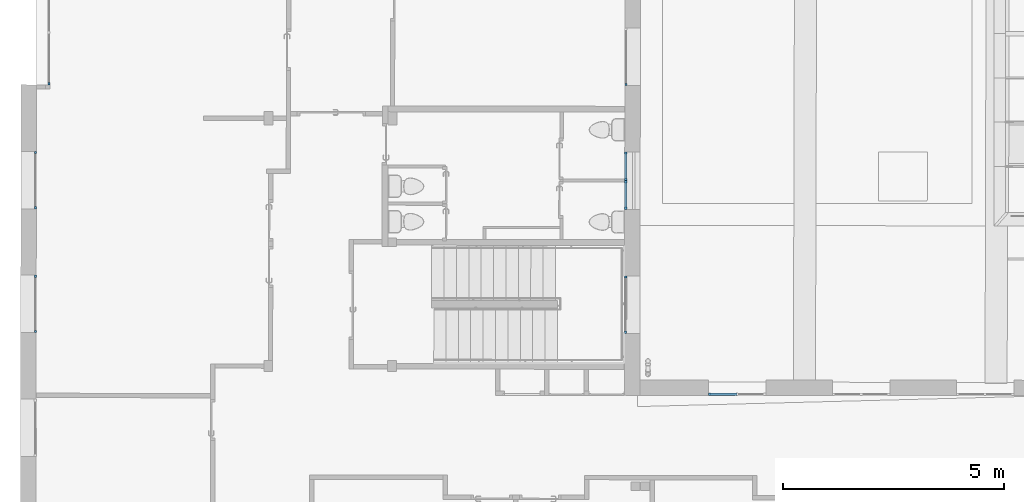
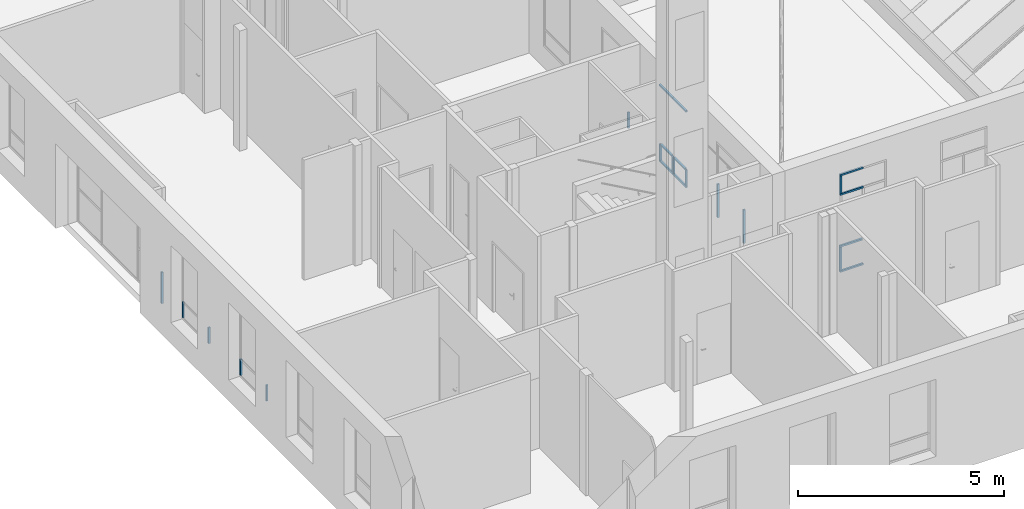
# One storey, part 21 of 101: 24 members, 8 elements without a shape of their own.
"""IFC2X3 building model written with IfcOpenShell, lengths in metres."""

import ifcopenshell
import ifcopenshell.guid

model = None  # the IFC model being written
_history = None  # IfcOwnerHistory: only IFC2X3 demands one
_inside = {}  # id of a spatial element -> (the spatial element, [elements in it])
_under = {}  # id of a project, library or spatial element -> (it, [spatial elements below it])
_declared = {}  # id of a project -> (the project, [libraries it declares])
_typed = {}  # id of a type object -> (the type object, [elements of that type])
_made_of = {}  # id of a material, layer set ... -> (it, [elements and type objects made of it])


def new_model(schema):
    """Start an empty IFC model of exactly this schema.

    Asked for "IFC4X3", IfcOpenShell would pick the latest addendum, in which some entities
    have other attributes; the version numbers below select the first issue.
    IFC2X3 requires an IfcOwnerHistory on every rooted entity: one is made here for all.
    """
    global model, _history
    if schema == "IFC4X3":
        model = ifcopenshell.file(schema_version=(4, 3, 0, 0))
    else:
        model = ifcopenshell.file(schema=schema)
    _inside.clear()
    _under.clear()
    _declared.clear()
    _typed.clear()
    _made_of.clear()
    _history = None
    if model.schema == "IFC2X3":
        org = make("IfcOrganization", Name="unknown")
        user = make(
            "IfcPersonAndOrganization",
            ThePerson=make("IfcPerson", FamilyName="unknown"),
            TheOrganization=org,
        )
        app = make(
            "IfcApplication",
            ApplicationDeveloper=org,
            Version="unknown",
            ApplicationFullName="unknown",
            ApplicationIdentifier="unknown",
        )
        _history = make(
            "IfcOwnerHistory",
            OwningUser=user,
            OwningApplication=app,
            ChangeAction="ADDED",
            CreationDate=0,
        )
    return model


def make(cls, **values):
    """One entity of the class cls with the attributes given. An attribute that is None is left unset."""
    return model.create_entity(
        cls, **{name: value for name, value in values.items() if value is not None}
    )


def entity(cls, *values):
    """Any entity or typed value of the class cls, its attributes in the order of the schema. None: left unset."""
    e = model.create_entity(cls)
    for i, value in enumerate(values):
        if value is not None:
            e[i] = value
    return e


def rooted(cls, **values):
    """An entity with a GlobalId (a new one), such as an element, a storey or a relation."""
    return make(cls, GlobalId=ifcopenshell.guid.new(), OwnerHistory=_history, **values)


def si_unit(unit_type, name, prefix=None):
    """IfcSIUnit, for example si_unit("LENGTHUNIT", "METRE", prefix="MILLI")."""
    return make("IfcSIUnit", UnitType=unit_type, Prefix=prefix, Name=name)


def converted_unit(unit_type, name, factor, base, dimensions=None, offset=None):
    """IfcConversionBasedUnit, such as the inch: factor (a typed value) times the base unit."""
    return make(
        "IfcConversionBasedUnit"
        if offset is None
        else "IfcConversionBasedUnitWithOffset",
        ConversionOffset=offset,
        Dimensions=None
        if dimensions is None
        else entity("IfcDimensionalExponents", *dimensions),
        UnitType=unit_type,
        Name=name,
        ConversionFactor=make(
            "IfcMeasureWithUnit", ValueComponent=factor, UnitComponent=base
        ),
    )


def derived_unit(unit_type, elements):
    """IfcDerivedUnit: a product of units, each with its exponent."""
    return make(
        "IfcDerivedUnit",
        Elements=[
            make("IfcDerivedUnitElement", Unit=unit, Exponent=power)
            for unit, power in elements
        ],
        UnitType=unit_type,
    )


def assignment(units):
    """IfcUnitAssignment: the units of a project."""
    return None if units is None else make("IfcUnitAssignment", Units=units)


def point(xyz):
    """IfcCartesianPoint."""
    return None if xyz is None else make("IfcCartesianPoint", Coordinates=xyz)


def direction(xyz):
    """IfcDirection."""
    return None if xyz is None else make("IfcDirection", DirectionRatios=xyz)


def frame(location, z_axis=None, x_axis=None):
    """IfcAxis2Placement3D, a coordinate frame: its origin and axes. An axis left out is left unset."""
    return make(
        "IfcAxis2Placement3D",
        Location=point(location),
        Axis=direction(z_axis),
        RefDirection=direction(x_axis),
    )


def frame_2d(location, x_axis=None):
    """IfcAxis2Placement2D, a coordinate frame in the plane: its origin and x axis."""
    return make(
        "IfcAxis2Placement2D", Location=point(location), RefDirection=direction(x_axis)
    )


def origin():
    """The frame at (0, 0, 0) with its axes left unset."""
    return frame((0.0, 0.0, 0.0))


def origin_2d_with_axis():
    """The frame at (0, 0) in the plane with the x axis (1, 0) written out."""
    return frame_2d((0.0, 0.0), x_axis=(1.0, 0.0))


def place(relative_to, where):
    """IfcLocalPlacement: puts the frame where relative to a parent placement (None: the world)."""
    return make(
        "IfcLocalPlacement", PlacementRelTo=relative_to, RelativePlacement=where
    )


def context(
    kind, dimensions, precision=None, world=None, true_north=None, identifier=None
):
    """IfcGeometricRepresentationContext, for example the 3D "Model" context."""
    return make(
        "IfcGeometricRepresentationContext",
        ContextIdentifier=identifier,
        ContextType=kind,
        CoordinateSpaceDimension=dimensions,
        Precision=precision,
        WorldCoordinateSystem=world,
        TrueNorth=true_north,
    )


def subcontext(parent, identifier, kind, view, scale=None):
    """IfcGeometricRepresentationSubContext, for example "Body" below "Model"."""
    return make(
        "IfcGeometricRepresentationSubContext",
        ContextIdentifier=identifier,
        ContextType=kind,
        ParentContext=parent,
        TargetScale=scale,
        TargetView=view,
    )


def project(units=None, contexts=None):
    """IfcProject with its units and contexts."""
    return rooted(
        "IfcProject",
        Name="project",
        RepresentationContexts=contexts,
        UnitsInContext=assignment(units),
    )


def spatial(cls, under=None, at=None, **own):
    """A site, building, storey or space (cls), placed at a placement, below another one or the project."""
    s = rooted(cls, ObjectPlacement=at, **own)
    if under is not None:
        _under.setdefault(under.id(), (under, []))[1].append(s)
    return s


def profile(cls, at=None, kind="AREA", **sizes):
    """A parametric profile (cls). Its sizes go by their IFC names, for example OverallWidth=200.0."""
    return make(cls, ProfileType=kind, Position=at, **sizes)


def rectangle(**sizes):
    """IfcRectangleProfileDef."""
    return profile("IfcRectangleProfileDef", **sizes)


def extrude(swept, where, along, depth):
    """IfcExtrudedAreaSolid: the profile swept, set in the frame where, extruded along a direction by depth."""
    return make(
        "IfcExtrudedAreaSolid",
        SweptArea=swept,
        Position=where,
        ExtrudedDirection=direction(along),
        Depth=depth,
    )


def shape(context_of_items, identifier, shape_type, items):
    """IfcShapeRepresentation: the items that make up one representation, for example the "Body"."""
    return make(
        "IfcShapeRepresentation",
        ContextOfItems=context_of_items,
        RepresentationIdentifier=identifier,
        RepresentationType=shape_type,
        Items=items,
    )


def source(mapping_origin, context_of_items, identifier, shape_type, items):
    """IfcRepresentationMap: a shape defined once, which mapped items show again and again."""
    return make(
        "IfcRepresentationMap",
        MappingOrigin=mapping_origin,
        MappedRepresentation=shape(context_of_items, identifier, shape_type, items),
    )


def transform(
    local_origin,
    x_axis=None,
    y_axis=None,
    z_axis=None,
    scale=None,
    scale2=None,
    scale3=None,
    uniform=True,
):
    """IfcCartesianTransformationOperator3D, or its non-uniform kind. x_axis, y_axis, z_axis: its Axis1, 2, 3."""
    if uniform:
        return make(
            "IfcCartesianTransformationOperator3D",
            Axis1=direction(x_axis),
            Axis2=direction(y_axis),
            LocalOrigin=point(local_origin),
            Scale=scale,
            Axis3=direction(z_axis),
        )
    return make(
        "IfcCartesianTransformationOperator3DnonUniform",
        Axis1=direction(x_axis),
        Axis2=direction(y_axis),
        LocalOrigin=point(local_origin),
        Scale=scale,
        Axis3=direction(z_axis),
        Scale2=scale2,
        Scale3=scale3,
    )


def mapped(mapping_source, mapping_target):
    """IfcMappedItem: shows the shape of a source again, moved by a transform."""
    return make(
        "IfcMappedItem", MappingSource=mapping_source, MappingTarget=mapping_target
    )


def material(Name=None, Category=None):
    """IfcMaterial."""
    return make("IfcMaterial", Name=Name, Category=Category)


def made_of(thing, what):
    """Note that an element or type object is made of a material, layer set ...; save() writes the relation."""
    if what is not None:
        _made_of.setdefault(what.id(), (what, []))[1].append(thing)
    return thing


def type_object(cls, material=None, **own):
    """A type object (cls), such as IfcWallType, which elements share."""
    return made_of(rooted(cls, **own), material)


def type_shapes(of_type, sources):
    """Give a type object the sources (RepresentationMaps) that its elements show as mapped items."""
    of_type.RepresentationMaps = sources


def element(
    cls,
    number,
    at=None,
    inside=None,
    cuts=None,
    type_object=None,
    material=None,
    context=None,
    identifier="Body",
    shape_type=None,
    held_by="IfcProductDefinitionShape",
    body=None,
    shapes=None,
    **own,
):
    """One element of the class cls, such as IfcWall. Its Tag is "e" and its number.

    at: its placement. inside: the storey or other place that contains it. cuts: it is an
    opening in that element (IfcRelVoidsElement). A single representation is given by context,
    identifier, shape_type and body (its items); several are given by shapes. held_by: the class
    of the entity that holds the representations. save() writes the other relations.
    """
    e = rooted(cls, Tag="e%d" % number, ObjectPlacement=at, **own)
    if body is not None:
        shapes = [shape(context, identifier, shape_type, body)]
    if shapes is not None:
        e.Representation = make(held_by, Representations=shapes)
    if inside is not None:
        _inside.setdefault(inside.id(), (inside, []))[1].append(e)
    if cuts is not None:
        rooted(
            "IfcRelVoidsElement", RelatingBuildingElement=cuts, RelatedOpeningElement=e
        )
    if type_object is not None:
        _typed.setdefault(type_object.id(), (type_object, []))[1].append(e)
    return made_of(e, material)


def aggregate(whole, parts):
    """IfcRelAggregates: a whole, such as a stair, and the parts it consists of."""
    return rooted("IfcRelAggregates", RelatingObject=whole, RelatedObjects=parts)


def save(model, path):
    """Write the relations noted so far, then the file.

    IfcRelAggregates (storeys below a building ...), IfcRelContainedInSpatialStructure (elements
    in a storey), IfcRelDefinesByType, IfcRelAssociatesMaterial and IfcRelDeclares: one each for
    every whole, place, type object, material and project.
    """
    for whole, parts in _under.values():
        aggregate(whole, parts)
    for where, things in _inside.values():
        rooted(
            "IfcRelContainedInSpatialStructure",
            RelatedElements=things,
            RelatingStructure=where,
        )
    for kind, things in _typed.values():
        rooted("IfcRelDefinesByType", RelatedObjects=things, RelatingType=kind)
    for what, things in _made_of.values():
        rooted("IfcRelAssociatesMaterial", RelatedObjects=things, RelatingMaterial=what)
    for by, libraries in _declared.values():
        rooted("IfcRelDeclares", RelatingContext=by, RelatedDefinitions=libraries)
    model.write(path)


model = new_model("IFC2X3")

# Units and contexts
model_context = context("Model", 3, precision=1e-05, world=origin(), true_north=direction((6.123233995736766e-17, 1.0)))
body_context = subcontext(model_context, "Body", "Model", "MODEL_VIEW")
ifc_project = project(units=[si_unit("LENGTHUNIT", "METRE"), si_unit("AREAUNIT", "SQUARE_METRE"), converted_unit("PLANEANGLEUNIT", "DEGREE", entity("IfcPlaneAngleMeasure", 0.017453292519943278), si_unit("PLANEANGLEUNIT", "RADIAN"), dimensions=[0, 0, 0, 0, 0, 0, 0]), derived_unit("THERMALTRANSMITTANCEUNIT", [(si_unit("MASSUNIT", "GRAM", prefix="KILO"), 1), (si_unit("THERMODYNAMICTEMPERATUREUNIT", "KELVIN"), -1), (si_unit("TIMEUNIT", "SECOND"), -3)])], contexts=[model_context])

# Site, building, storey
site_placement = place(None, frame((1253.6752467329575, 2072.143113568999, 91.49999999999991), z_axis=(0.0, 0.0, 1.0), x_axis=(0.7237211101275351, 0.6900925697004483, 0.0)))
site = spatial("IfcSite", under=ifc_project, at=site_placement, Name="Surface", CompositionType="ELEMENT")
building_placement = place(site_placement, origin())
building = spatial("IfcBuilding", under=site, at=building_placement, CompositionType="ELEMENT")
storey_placement = place(building_placement, origin())
storey = spatial("IfcBuildingStorey", under=building, at=storey_placement, Name="0- Rdc", CompositionType="ELEMENT", Elevation=-5.764692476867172e-13)

# Curtain wall, member
curtain_wall_type_1 = type_object("IfcCurtainWallType", Name="Mur-rideau:Menuiserie Ext 1F+1OB VERTIC", PredefinedType="NOTDEFINED")
curtain_wall_1_placement = place(storey_placement, origin())
curtain_wall_1 = element("IfcCurtainWall", 1, at=curtain_wall_1_placement, inside=storey, type_object=curtain_wall_type_1, Name="Mur-rideau:Menuiserie Ext 1F+1OB VERTIC", ObjectType="Mur-rideau:Menuiserie Ext 1F+1OB VERTIC")
ifc_material = material(Name="OMD_Aluminium Men Ext")
member_type_1 = type_object("IfcMemberType", Name="Meneau rectangulaire:50x50", PredefinedType="MULLION", material=ifc_material)
shared_shape_1 = source(origin(), body_context, "Body", "SweptSolid", [
    extrude(rectangle(XDim=0.05, YDim=0.049999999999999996, at=origin_2d_with_axis()), frame((-0.025, 0.0, -0.4699999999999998), z_axis=(0.0, 0.0, 1.0), x_axis=(-1.0, 0.0, 0.0)), (0.0, 0.0, 1.0), 0.4699999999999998),
])
type_shapes(member_type_1, [shared_shape_1])
member_1_placement = place(curtain_wall_1_placement, frame((151.8210219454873, 12.235292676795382, 0.6699999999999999), z_axis=(0.0, 0.0, -1.0), x_axis=(0.6911544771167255, 0.7227070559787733, 0.0)))
member_1 = element("IfcMember", 2, at=member_1_placement, type_object=member_type_1, material=ifc_material, Name="Meneau rectangulaire:50x50", ObjectType="Meneau rectangulaire:50x50", context=body_context, shape_type="MappedRepresentation", body=[
    mapped(shared_shape_1, transform((0.0, 0.0, 0.0), scale=1.0)),
])

curtain_wall_2_placement = place(storey_placement, origin())
curtain_wall_2 = element("IfcCurtainWall", 3, at=curtain_wall_2_placement, inside=storey, type_object=curtain_wall_type_1, Name="Mur-rideau:Menuiserie Ext 1F+1OB VERTIC", ObjectType="Mur-rideau:Menuiserie Ext 1F+1OB VERTIC")
member_2_placement = place(curtain_wall_2_placement, frame((153.75577662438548, 14.25932931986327, 0.6699999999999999), z_axis=(0.0, 0.0, -1.0), x_axis=(0.6911544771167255, 0.7227070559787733, 0.0)))
member_2 = element("IfcMember", 4, at=member_2_placement, type_object=member_type_1, material=ifc_material, Name="Meneau rectangulaire:50x50", ObjectType="Meneau rectangulaire:50x50", context=body_context, shape_type="MappedRepresentation", body=[
    mapped(shared_shape_1, transform((0.0, 0.0, 0.0), scale=1.0)),
])

# Member
member_type_2 = type_object("IfcMemberType", Name="Meneau rectangulaire:50x50", PredefinedType="MULLION", material=ifc_material)
shared_shape_2 = source(origin(), body_context, "Body", "SweptSolid", [
    extrude(rectangle(XDim=0.05, YDim=0.049999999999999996, at=origin_2d_with_axis()), frame((-0.025, 0.0, -0.4699999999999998), z_axis=(0.0, 0.0, 1.0), x_axis=(-1.0, 0.0, 0.0)), (0.0, 0.0, 1.0), 0.4699999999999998),
])
type_shapes(member_type_2, [shared_shape_2])
member_3_placement = place(curtain_wall_1_placement, frame((150.92273130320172, 11.295993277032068, 1.14), z_axis=(0.0, 0.0, 1.0), x_axis=(-0.6911544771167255, -0.7227070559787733, 0.0)))
member_3 = element("IfcMember", 5, at=member_3_placement, type_object=member_type_2, material=ifc_material, Name="Meneau rectangulaire:50x50", ObjectType="Meneau rectangulaire:50x50", context=body_context, shape_type="MappedRepresentation", body=[
    mapped(shared_shape_2, transform((0.0, 0.0, 0.0), scale=1.0)),
])

aggregate(curtain_wall_1, [member_1, member_3])

member_4_placement = place(curtain_wall_2_placement, frame((152.85748598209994, 13.320029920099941, 1.14), z_axis=(0.0, 0.0, 1.0), x_axis=(-0.6911544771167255, -0.7227070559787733, 0.0)))
member_4 = element("IfcMember", 6, at=member_4_placement, type_object=member_type_2, material=ifc_material, Name="Meneau rectangulaire:50x50", ObjectType="Meneau rectangulaire:50x50", context=body_context, shape_type="MappedRepresentation", body=[
    mapped(shared_shape_2, transform((0.0, 0.0, 0.0), scale=1.0)),
])

aggregate(curtain_wall_2, [member_2, member_4])

# Curtain wall, member
curtain_wall_3_placement = place(storey_placement, origin())
curtain_wall_3 = element("IfcCurtainWall", 7, at=curtain_wall_3_placement, inside=storey, type_object=curtain_wall_type_1, Name="Mur-rideau:Menuiserie Ext 1F+1OB VERTIC", ObjectType="Mur-rideau:Menuiserie Ext 1F+1OB VERTIC")
member_type_3 = type_object("IfcMemberType", Name="Meneau rectangulaire:50x50", PredefinedType="MULLION", material=ifc_material)
shared_shape_3 = source(origin(), body_context, "Body", "SweptSolid", [
    extrude(rectangle(XDim=0.05, YDim=0.049999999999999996, at=origin_2d_with_axis()), frame((-0.025, 0.0, -0.4699999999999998), z_axis=(0.0, 0.0, 1.0), x_axis=(-1.0, 0.0, 0.0)), (0.0, 0.0, 1.0), 0.4699999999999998),
])
type_shapes(member_type_3, [shared_shape_3])
member_5_placement = place(curtain_wall_3_placement, frame((162.95097963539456, 4.576024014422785, 0.6699999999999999), z_axis=(0.0, 0.0, -1.0), x_axis=(0.6909838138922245, 0.722870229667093, 0.0)))
member_5 = element("IfcMember", 8, at=member_5_placement, type_object=member_type_3, material=ifc_material, Name="Meneau rectangulaire:50x50", ObjectType="Meneau rectangulaire:50x50", context=body_context, shape_type="MappedRepresentation", body=[
    mapped(shared_shape_3, transform((0.0, 0.0, 0.0), scale=1.0)),
])

curtain_wall_4_placement = place(storey_placement, origin())
curtain_wall_4 = element("IfcCurtainWall", 9, at=curtain_wall_4_placement, inside=storey, type_object=curtain_wall_type_1, Name="Mur-rideau:Menuiserie Ext 1F+1OB VERTIC", ObjectType="Mur-rideau:Menuiserie Ext 1F+1OB VERTIC")
member_type_4 = type_object("IfcMemberType", Name="Meneau rectangulaire:50x50", PredefinedType="MULLION", material=ifc_material)
shared_shape_4 = source(origin(), body_context, "Body", "SweptSolid", [
    extrude(rectangle(XDim=0.05, YDim=0.05000000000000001, at=origin_2d_with_axis()), frame((-0.025, 0.0, -0.4699999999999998), z_axis=(0.0, 0.0, 1.0), x_axis=(-1.0, 0.0, 0.0)), (0.0, 0.0, 1.0), 0.4699999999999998),
])
type_shapes(member_type_4, [shared_shape_4])
member_6_placement = place(curtain_wall_4_placement, frame((164.43680496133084, 6.130414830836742, 1.14), z_axis=(0.0, 0.0, 1.0), x_axis=(-0.6909838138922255, -0.722870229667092, 0.0)))
member_6 = element("IfcMember", 10, at=member_6_placement, type_object=member_type_4, material=ifc_material, Name="Meneau rectangulaire:50x50", ObjectType="Meneau rectangulaire:50x50", context=body_context, shape_type="MappedRepresentation", body=[
    mapped(shared_shape_4, transform((0.0, 0.0, 0.0), scale=1.0)),
])
aggregate(curtain_wall_4, [member_6])

# Member
member_7_placement = place(curtain_wall_3_placement, frame((162.50205028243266, 4.106378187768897, 1.14), z_axis=(0.0, 0.0, 1.0), x_axis=(-0.6909838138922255, -0.722870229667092, 0.0)))
member_7 = element("IfcMember", 11, at=member_7_placement, type_object=member_type_4, material=ifc_material, Name="Meneau rectangulaire:50x50", ObjectType="Meneau rectangulaire:50x50", context=body_context, shape_type="MappedRepresentation", body=[
    mapped(shared_shape_4, transform((0.0, 0.0, 0.0), scale=1.0)),
])

member_type_5 = type_object("IfcMemberType", Name="Meneau rectangulaire:50x50", PredefinedType="MULLION", material=ifc_material)
shared_shape_5 = source(origin(), body_context, "Body", "SweptSolid", [
    extrude(rectangle(XDim=0.05, YDim=0.05000000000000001, at=origin_2d_with_axis()), frame((-0.025, 0.0, -0.6496959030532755), z_axis=(0.0, 0.0, 1.0), x_axis=(-1.0, 0.0, 0.0)), (0.0, 0.0, 1.0), 0.6496959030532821),
])
type_shapes(member_type_5, [shared_shape_5])
member_8_placement = place(curtain_wall_3_placement, frame((162.95097963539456, 4.576024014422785, 2.8999999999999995), z_axis=(0.6909838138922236, 0.7228702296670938, 0.0), x_axis=(0.0, 0.0, 1.0)))
member_8 = element("IfcMember", 12, at=member_8_placement, type_object=member_type_5, material=ifc_material, Name="Meneau rectangulaire:50x50", ObjectType="Meneau rectangulaire:50x50", context=body_context, shape_type="MappedRepresentation", body=[
    mapped(shared_shape_5, transform((0.0, 0.0, 0.0), scale=1.0)),
])

member_type_6 = type_object("IfcMemberType", Name="Meneau rectangulaire:50x50", PredefinedType="MULLION", material=ifc_material)
shared_shape_6 = source(origin(), body_context, "Body", "SweptSolid", [
    extrude(rectangle(XDim=0.05, YDim=0.05, at=origin_2d_with_axis()), frame((-0.025, 0.0, -0.6496959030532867), z_axis=(0.0, 0.0, 1.0), x_axis=(-1.0, 0.0, 0.0)), (0.0, 0.0, 1.0), 0.6496959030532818),
])
type_shapes(member_type_6, [shared_shape_6])
member_9_placement = place(curtain_wall_3_placement, frame((162.5020502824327, 4.106378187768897, 0.62), z_axis=(-0.690983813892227, -0.7228702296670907, 0.0), x_axis=(0.0, 0.0, -1.0)))
member_9 = element("IfcMember", 13, at=member_9_placement, type_object=member_type_6, material=ifc_material, Name="Meneau rectangulaire:50x50", ObjectType="Meneau rectangulaire:50x50", context=body_context, shape_type="MappedRepresentation", body=[
    mapped(shared_shape_6, transform((0.0, 0.0, 0.0), scale=1.0)),
])

member_type_7 = type_object("IfcMemberType", Name="Meneau rectangulaire:50x50", PredefinedType="MULLION", material=ifc_material)
shared_shape_7 = source(origin(), body_context, "Body", "SweptSolid", [
    extrude(rectangle(XDim=0.05, YDim=0.05, at=frame_2d((0.0, -1.734723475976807e-18), x_axis=(1.0, 0.0))), frame((0.0, 0.0, -0.5496959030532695), z_axis=(0.0, 0.0, 1.0), x_axis=(-1.0, 0.0, 0.0)), (0.0, 0.0, 1.0), 0.549695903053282),
])
type_shapes(member_type_7, [shared_shape_7])
member_10_placement = place(curtain_wall_3_placement, frame((162.91643044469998, 4.53988050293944, 1.14), z_axis=(0.6909838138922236, 0.7228702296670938, 0.0), x_axis=(0.0, 0.0, 1.0)))
member_10 = element("IfcMember", 14, at=member_10_placement, type_object=member_type_7, material=ifc_material, Name="Meneau rectangulaire:50x50", ObjectType="Meneau rectangulaire:50x50", context=body_context, shape_type="MappedRepresentation", body=[
    mapped(shared_shape_7, transform((0.0, 0.0, 0.0), scale=1.0)),
])

aggregate(curtain_wall_3, [member_8, member_9, member_5, member_7, member_10])

# Curtain wall, members
curtain_wall_5_placement = place(storey_placement, origin())
curtain_wall_5 = element("IfcCurtainWall", 15, at=curtain_wall_5_placement, inside=storey, type_object=curtain_wall_type_1, Name="Mur-rideau:Menuiserie Ext 1F+1OB VERTIC", ObjectType="Mur-rideau:Menuiserie Ext 1F+1OB VERTIC")
member_type_8 = type_object("IfcMemberType", Name="Meneau rectangulaire:50x50", PredefinedType="MULLION", material=ifc_material)
shared_shape_8 = source(origin(), body_context, "Body", "SweptSolid", [
    extrude(rectangle(XDim=0.05, YDim=0.05, at=origin_2d_with_axis()), frame((-0.025, 0.0, -0.9899999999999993), z_axis=(0.0, 0.0, 1.0), x_axis=(-1.0, 0.0, 0.0)), (0.0, 0.0, 1.0), 0.9899999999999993),
])
type_shapes(member_type_8, [shared_shape_8])
member_11_placement = place(curtain_wall_5_placement, frame((161.46536443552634, 3.0218530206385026, 0.6699999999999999), z_axis=(0.0, 0.0, -1.0), x_axis=(0.6909838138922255, 0.722870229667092, 0.0)))
member_11 = element("IfcMember", 16, at=member_11_placement, type_object=member_type_8, material=ifc_material, Name="Meneau rectangulaire:50x50", ObjectType="Meneau rectangulaire:50x50", context=body_context, shape_type="MappedRepresentation", body=[
    mapped(shared_shape_8, transform((0.0, 0.0, 0.0), scale=1.0)),
])
member_type_9 = type_object("IfcMemberType", Name="Meneau rectangulaire:50x50", PredefinedType="MULLION", material=ifc_material)
shared_shape_9 = source(origin(), body_context, "Body", "SweptSolid", [
    extrude(rectangle(XDim=0.05, YDim=0.05, at=origin_2d_with_axis()), frame((-0.025, 0.0, -0.9899999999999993), z_axis=(0.0, 0.0, 1.0), x_axis=(-1.0, 0.0, 0.0)), (0.0, 0.0, 1.0), 0.9899999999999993),
])
type_shapes(member_type_9, [shared_shape_9])
member_12_placement = place(curtain_wall_5_placement, frame((160.56729560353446, 2.0823415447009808, 1.6599999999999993), z_axis=(0.0, 0.0, 1.0), x_axis=(-0.6909838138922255, -0.722870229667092, 0.0)))
member_12 = element("IfcMember", 17, at=member_12_placement, type_object=member_type_9, material=ifc_material, Name="Meneau rectangulaire:50x50", ObjectType="Meneau rectangulaire:50x50", context=body_context, shape_type="MappedRepresentation", body=[
    mapped(shared_shape_9, transform((0.0, 0.0, 0.0), scale=1.0)),
])
aggregate(curtain_wall_5, [member_11, member_12])

curtain_wall_type_2 = type_object("IfcCurtainWallType", Name="Mur-rideau:Menuiserie Ext 2OF+1F VERTIC", PredefinedType="NOTDEFINED")
curtain_wall_6_placement = place(storey_placement, origin())
curtain_wall_6 = element("IfcCurtainWall", 18, at=curtain_wall_6_placement, inside=storey, type_object=curtain_wall_type_2, Name="Mur-rideau:Menuiserie Ext 2OF+1F VERTIC", ObjectType="Mur-rideau:Menuiserie Ext 2OF+1F VERTIC")
member_type_10 = type_object("IfcMemberType", Name="Meneau rectangulaire:50x50", PredefinedType="MULLION", material=ifc_material)
shared_shape_10 = source(origin(), body_context, "Body", "SweptSolid", [
    extrude(rectangle(XDim=0.05, YDim=0.05, at=origin_2d_with_axis()), frame((-0.025, 0.0, -0.649847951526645), z_axis=(0.0, 0.0, 1.0), x_axis=(-1.0, 0.0, 0.0)), (0.0, 0.0, 1.0), 0.6498479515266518),
])
type_shapes(member_type_10, [shared_shape_10])
member_13_placement = place(curtain_wall_6_placement, frame((160.97005655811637, -0.20521344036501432, 2.8999999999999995), z_axis=(-0.7228702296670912, 0.6909838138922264, 0.0), x_axis=(0.0, 0.0, 1.0)))
member_13 = element("IfcMember", 19, at=member_13_placement, type_object=member_type_10, material=ifc_material, Name="Meneau rectangulaire:50x50", ObjectType="Meneau rectangulaire:50x50", context=body_context, shape_type="MappedRepresentation", body=[
    mapped(shared_shape_10, transform((0.0, 0.0, 0.0), scale=1.0)),
])
member_type_11 = type_object("IfcMemberType", Name="Meneau rectangulaire:50x50", PredefinedType="MULLION", material=ifc_material)
shared_shape_11 = source(origin(), body_context, "Body", "SweptSolid", [
    extrude(rectangle(XDim=0.05, YDim=0.049999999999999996, at=origin_2d_with_axis()), frame((-0.025, 0.0, -0.6916666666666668), z_axis=(0.0, 0.0, 1.0), x_axis=(-1.0, 0.0, 0.0)), (0.0, 0.0, 1.0), 0.6916666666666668),
])
type_shapes(member_type_11, [shared_shape_11])
member_14_placement = place(curtain_wall_6_placement, frame((160.97005655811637, -0.20521344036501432, 0.05), z_axis=(0.0, 0.0, -1.0), x_axis=(-0.7228702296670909, 0.6909838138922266, 0.0)))
member_14 = element("IfcMember", 20, at=member_14_placement, type_object=member_type_11, material=ifc_material, Name="Meneau rectangulaire:50x50", ObjectType="Meneau rectangulaire:50x50", context=body_context, shape_type="MappedRepresentation", body=[
    mapped(shared_shape_11, transform((0.0, 0.0, 0.0), scale=1.0)),
])
member_type_12 = type_object("IfcMemberType", Name="Meneau rectangulaire:50x50", PredefinedType="MULLION", material=ifc_material)
shared_shape_12 = source(origin(), body_context, "Body", "SweptSolid", [
    extrude(rectangle(XDim=0.05, YDim=0.05, at=origin_2d_with_axis()), frame((-0.025, 0.0, -0.5249999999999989), z_axis=(0.0, 0.0, 1.0), x_axis=(-1.0, 0.0, 0.0)), (0.0, 0.0, 1.0), 0.5249999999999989),
])
type_shapes(member_type_12, [shared_shape_12])
member_15_placement = place(curtain_wall_6_placement, frame((160.97005655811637, -0.20521344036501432, 2.3250000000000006), z_axis=(0.0, 0.0, -1.0), x_axis=(-0.7228702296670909, 0.6909838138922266, 0.0)))
member_15 = element("IfcMember", 21, at=member_15_placement, type_object=member_type_12, material=ifc_material, Name="Meneau rectangulaire:50x50", ObjectType="Meneau rectangulaire:50x50", context=body_context, shape_type="MappedRepresentation", body=[
    mapped(shared_shape_12, transform((0.0, 0.0, 0.0), scale=1.0)),
])
member_type_13 = type_object("IfcMemberType", Name="Meneau rectangulaire:50x50", PredefinedType="MULLION", material=ifc_material)
shared_shape_13 = source(origin(), body_context, "Body", "SweptSolid", [
    extrude(rectangle(XDim=0.05, YDim=0.05, at=origin_2d_with_axis()), frame((-0.025, 0.0, -0.6498479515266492), z_axis=(0.0, 0.0, 1.0), x_axis=(-1.0, 0.0, 0.0)), (0.0, 0.0, 1.0), 0.6498479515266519),
])
type_shapes(member_type_13, [shared_shape_13])
member_16_placement = place(curtain_wall_6_placement, frame((161.4398122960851, -0.6542478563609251, 0.0), z_axis=(0.7228702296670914, -0.6909838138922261, 0.0), x_axis=(0.0, 0.0, -1.0)))
member_16 = element("IfcMember", 22, at=member_16_placement, type_object=member_type_13, material=ifc_material, Name="Meneau rectangulaire:50x50", ObjectType="Meneau rectangulaire:50x50", context=body_context, shape_type="MappedRepresentation", body=[
    mapped(shared_shape_13, transform((0.0, 0.0, 0.0), scale=1.0)),
])
member_type_14 = type_object("IfcMemberType", Name="Meneau rectangulaire:50x50", PredefinedType="MULLION", material=ifc_material)
shared_shape_14 = source(origin(), body_context, "Body", "SweptSolid", [
    extrude(rectangle(XDim=0.05, YDim=0.05, at=origin_2d_with_axis()), frame((0.0, 0.0, -0.649847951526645), z_axis=(0.0, 0.0, 1.0), x_axis=(-1.0, 0.0, 0.0)), (0.0, 0.0, 1.0), 0.6498479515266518),
])
type_shapes(member_type_14, [shared_shape_14])
member_17_placement = place(curtain_wall_6_placement, frame((160.97005655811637, -0.2052134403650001, 2.3000000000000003), z_axis=(-0.7228702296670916, 0.690983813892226, 0.0), x_axis=(0.0, 0.0, 1.0)))
member_17 = element("IfcMember", 23, at=member_17_placement, type_object=member_type_14, material=ifc_material, Name="Meneau rectangulaire:50x50", ObjectType="Meneau rectangulaire:50x50", context=body_context, shape_type="MappedRepresentation", body=[
    mapped(shared_shape_14, transform((0.0, 0.0, 0.0), scale=1.0)),
])
member_type_15 = type_object("IfcMemberType", Name="Meneau rectangulaire:50x50", PredefinedType="MULLION", material=ifc_material)
shared_shape_15 = source(origin(), body_context, "Body", "SweptSolid", [
    extrude(rectangle(XDim=0.05, YDim=0.05, at=origin_2d_with_axis()), frame((0.0, 0.0, -0.624847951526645), z_axis=(0.0, 0.0, 1.0), x_axis=(-1.0, 0.0, 0.0)), (0.0, 0.0, 1.0), 0.6248479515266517),
])
type_shapes(member_type_15, [shared_shape_15])
member_18_placement = place(curtain_wall_6_placement, frame((160.97005655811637, -0.2052134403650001, 0.7666666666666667), z_axis=(-0.7228702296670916, 0.690983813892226, 0.0), x_axis=(0.0, 0.0, 1.0)))
member_18 = element("IfcMember", 24, at=member_18_placement, type_object=member_type_15, material=ifc_material, Name="Meneau rectangulaire:50x50", ObjectType="Meneau rectangulaire:50x50", context=body_context, shape_type="MappedRepresentation", body=[
    mapped(shared_shape_15, transform((0.0, 0.0, 0.0), scale=1.0)),
])
aggregate(curtain_wall_6, [member_13, member_14, member_15, member_16, member_17, member_18])

# Curtain wall, member
curtain_wall_7_placement = place(storey_placement, origin())
curtain_wall_7 = element("IfcCurtainWall", 25, at=curtain_wall_7_placement, inside=storey, type_object=curtain_wall_type_1, Name="Mur-rideau:Menuiserie Ext 1F+1OB VERTIC", ObjectType="Mur-rideau:Menuiserie Ext 1F+1OB VERTIC")
member_type_16 = type_object("IfcMemberType", Name="Meneau rectangulaire:50x50", PredefinedType="MULLION", material=ifc_material)
shared_shape_16 = source(origin(), body_context, "Body", "SweptSolid", [
    extrude(rectangle(XDim=0.05, YDim=0.049999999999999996, at=origin_2d_with_axis()), frame((-0.025, 0.0, -0.9249999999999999), z_axis=(0.0, 0.0, 1.0), x_axis=(-1.0, 0.0, 0.0)), (0.0, 0.0, 1.0), 0.9249999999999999),
])
type_shapes(member_type_16, [shared_shape_16])
member_19_placement = place(curtain_wall_7_placement, frame((155.01036704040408, 15.140623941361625, 0.05), z_axis=(0.0, 0.0, -1.0), x_axis=(-0.6909838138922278, -0.7228702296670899, 0.0)))
member_19 = element("IfcMember", 26, at=member_19_placement, type_object=member_type_16, material=ifc_material, Name="Meneau rectangulaire:50x50", ObjectType="Meneau rectangulaire:50x50", context=body_context, shape_type="MappedRepresentation", body=[
    mapped(shared_shape_16, transform((0.0, 0.0, 0.0), scale=1.0)),
])
aggregate(curtain_wall_7, [member_19])

# Curtain wall, members
curtain_wall_8_placement = place(storey_placement, origin())
curtain_wall_8 = element("IfcCurtainWall", 27, at=curtain_wall_8_placement, inside=storey, type_object=curtain_wall_type_1, Name="Mur-rideau:Menuiserie Ext 1F+1OB VERTIC", ObjectType="Mur-rideau:Menuiserie Ext 1F+1OB VERTIC")
member_type_17 = type_object("IfcMemberType", Name="Meneau rectangulaire:50x50", PredefinedType="MULLION", material=ifc_material)
shared_shape_17 = source(origin(), body_context, "Body", "SweptSolid", [
    extrude(rectangle(XDim=0.05, YDim=0.05000000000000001, at=origin_2d_with_axis()), frame((-0.025, 0.0, -0.6500000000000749), z_axis=(0.0, 0.0, 1.0), x_axis=(-1.0, 0.0, 0.0)), (0.0, 0.0, 1.0), 0.6500000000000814),
])
type_shapes(member_type_17, [shared_shape_17])
member_20_placement = place(curtain_wall_8_placement, frame((162.95097963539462, 4.576024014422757, 2.8999999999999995), z_axis=(-0.6909838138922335, -0.7228702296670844, 0.0), x_axis=(0.0, 0.0, 1.0)))
member_20 = element("IfcMember", 28, at=member_20_placement, type_object=member_type_17, material=ifc_material, Name="Meneau rectangulaire:50x50", ObjectType="Meneau rectangulaire:50x50", context=body_context, shape_type="MappedRepresentation", body=[
    mapped(shared_shape_17, transform((0.0, 0.0, 0.0), scale=1.0)),
])
member_type_18 = type_object("IfcMemberType", Name="Meneau rectangulaire:50x50", PredefinedType="MULLION", material=ifc_material)
shared_shape_18 = source(origin(), body_context, "Body", "SweptSolid", [
    extrude(rectangle(XDim=0.05, YDim=0.05, at=origin_2d_with_axis()), frame((-0.025, 0.0, -0.6500000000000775), z_axis=(0.0, 0.0, 1.0), x_axis=(-1.0, 0.0, 0.0)), (0.0, 0.0, 1.0), 0.6500000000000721),
])
type_shapes(member_type_18, [shared_shape_18])
member_21_placement = place(curtain_wall_8_placement, frame((163.40011911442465, 5.045889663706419, 0.62), z_axis=(0.6909838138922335, 0.7228702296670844, 0.0), x_axis=(0.0, 0.0, -1.0)))
member_21 = element("IfcMember", 29, at=member_21_placement, type_object=member_type_18, material=ifc_material, Name="Meneau rectangulaire:50x50", ObjectType="Meneau rectangulaire:50x50", context=body_context, shape_type="MappedRepresentation", body=[
    mapped(shared_shape_18, transform((0.0, 0.0, 0.0), scale=1.0)),
])
member_type_19 = type_object("IfcMemberType", Name="Meneau rectangulaire:50x50", PredefinedType="MULLION", material=ifc_material)
shared_shape_19 = source(origin(), body_context, "Body", "SweptSolid", [
    extrude(rectangle(XDim=0.05, YDim=0.049999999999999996, at=origin_2d_with_axis()), frame((-0.025, 0.0, -0.4699999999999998), z_axis=(0.0, 0.0, 1.0), x_axis=(-1.0, 0.0, 0.0)), (0.0, 0.0, 1.0), 0.4699999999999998),
])
type_shapes(member_type_19, [shared_shape_19])
member_22_placement = place(curtain_wall_8_placement, frame((162.95097963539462, 4.576024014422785, 0.6699999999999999), z_axis=(0.0, 0.0, -1.0), x_axis=(-0.6909838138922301, -0.7228702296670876, 0.0)))
member_22 = element("IfcMember", 30, at=member_22_placement, type_object=member_type_19, material=ifc_material, Name="Meneau rectangulaire:50x50", ObjectType="Meneau rectangulaire:50x50", context=body_context, shape_type="MappedRepresentation", body=[
    mapped(shared_shape_19, transform((0.0, 0.0, 0.0), scale=1.0)),
])
member_type_20 = type_object("IfcMemberType", Name="Meneau rectangulaire:50x50", PredefinedType="MULLION", material=ifc_material)
shared_shape_20 = source(origin(), body_context, "Body", "SweptSolid", [
    extrude(rectangle(XDim=0.05, YDim=0.05, at=origin_2d_with_axis()), frame((-0.025, 0.0, -0.4699999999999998), z_axis=(0.0, 0.0, 1.0), x_axis=(-1.0, 0.0, 0.0)), (0.0, 0.0, 1.0), 0.4699999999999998),
])
type_shapes(member_type_20, [shared_shape_20])
member_23_placement = place(curtain_wall_8_placement, frame((163.40011911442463, 5.045889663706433, 1.14), z_axis=(0.0, 0.0, 1.0), x_axis=(0.6909838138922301, 0.7228702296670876, 0.0)))
member_23 = element("IfcMember", 31, at=member_23_placement, type_object=member_type_20, material=ifc_material, Name="Meneau rectangulaire:50x50", ObjectType="Meneau rectangulaire:50x50", context=body_context, shape_type="MappedRepresentation", body=[
    mapped(shared_shape_20, transform((0.0, 0.0, 0.0), scale=1.0)),
])
member_type_21 = type_object("IfcMemberType", Name="Meneau rectangulaire:50x50", PredefinedType="MULLION", material=ifc_material)
shared_shape_21 = source(origin(), body_context, "Body", "SweptSolid", [
    extrude(rectangle(XDim=0.05, YDim=0.05, at=origin_2d_with_axis()), frame((0.0, 0.0, -0.550000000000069), z_axis=(0.0, 0.0, 1.0), x_axis=(-1.0, 0.0, 0.0)), (0.0, 0.0, 1.0), 0.5500000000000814),
])
type_shapes(member_type_21, [shared_shape_21])
member_24_placement = place(curtain_wall_8_placement, frame((162.98552882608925, 4.6121675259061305, 1.14), z_axis=(-0.6909838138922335, -0.7228702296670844, 0.0), x_axis=(0.0, 0.0, 1.0)))
member_24 = element("IfcMember", 32, at=member_24_placement, type_object=member_type_21, material=ifc_material, Name="Meneau rectangulaire:50x50", ObjectType="Meneau rectangulaire:50x50", context=body_context, shape_type="MappedRepresentation", body=[
    mapped(shared_shape_21, transform((0.0, 0.0, 0.0), scale=1.0)),
])
aggregate(curtain_wall_8, [member_20, member_21, member_22, member_23, member_24])

save(model, "model.ifc")
